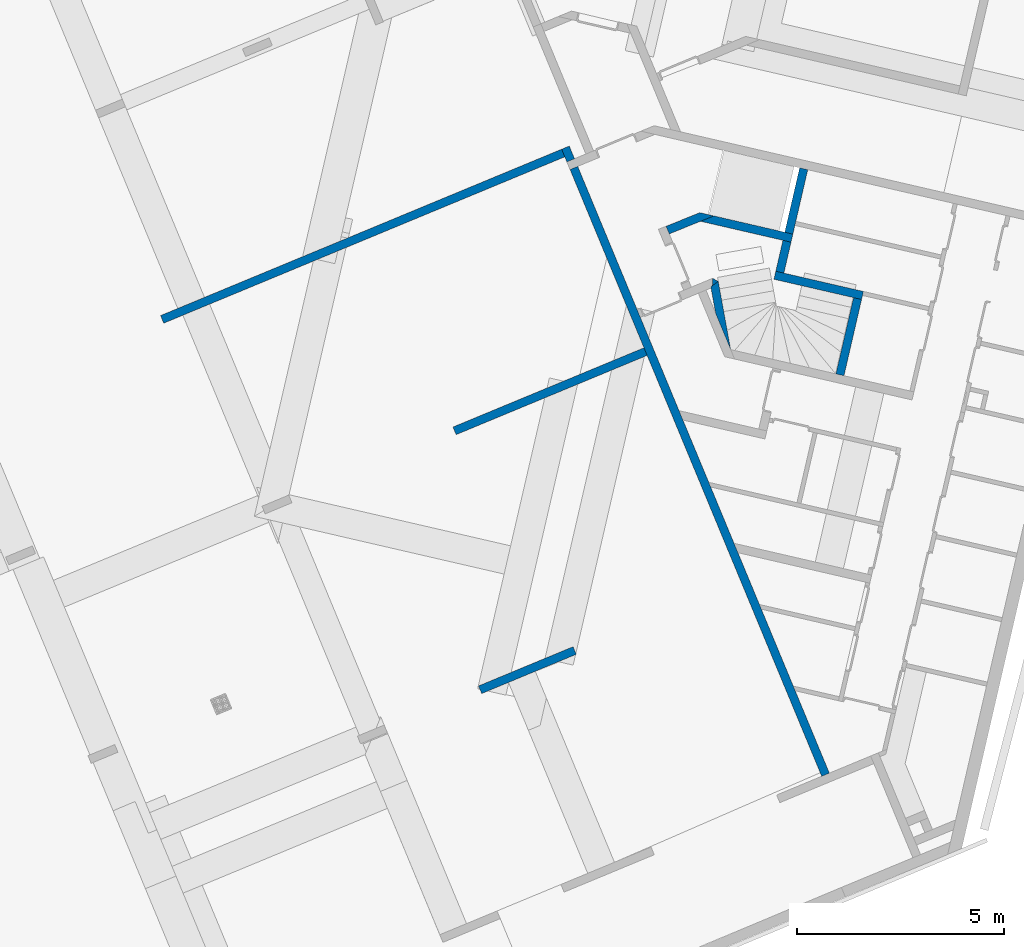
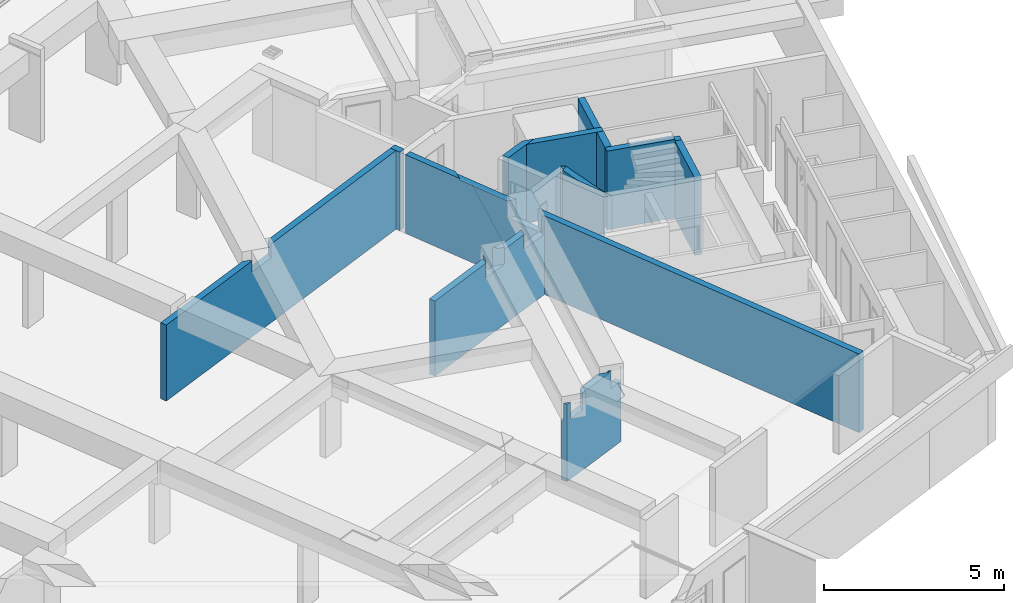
# One storey, part 9 of 20: 11 walls.
"""IFC2X3 building model written with IfcOpenShell, lengths in metres."""

from ifc_helpers import new_model, entity, si_unit, converted_unit, derived_unit, money_unit, direction, frame, origin_with_axes, place, context, subcontext, project, spatial, faceted_brep, material, type_object, element, save


model = new_model("IFC2X3")

# Units and contexts
model_context = context("Model", 3, precision=1e-05, world=origin_with_axes(), true_north=direction((0.0, 1.0)))
body_context = subcontext(model_context, "Body", "Model", "MODEL_VIEW")
ifc_project = project(units=[si_unit("LENGTHUNIT", "METRE"), si_unit("AREAUNIT", "SQUARE_METRE"), si_unit("VOLUMEUNIT", "CUBIC_METRE"), converted_unit("PLANEANGLEUNIT", "DEGREE", entity("IfcPlaneAngleMeasure", 0.0174532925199), si_unit("PLANEANGLEUNIT", "RADIAN"), dimensions=[0, 0, 0, 0, 0, 0, 0]), si_unit("SOLIDANGLEUNIT", "STERADIAN"), money_unit("EUR"), converted_unit("TIMEUNIT", "Year", entity("IfcTimeMeasure", 31556926.0), si_unit("TIMEUNIT", "SECOND"), dimensions=[0, 0, 1, 0, 0, 0, 0]), si_unit("MASSUNIT", "GRAM", prefix="KILO"), si_unit("THERMODYNAMICTEMPERATUREUNIT", "DEGREE_CELSIUS"), si_unit("LUMINOUSINTENSITYUNIT", "LUMEN"), si_unit("ENERGYUNIT", "JOULE", prefix="MEGA"), derived_unit("THERMALCONDUCTANCEUNIT", [(si_unit("POWERUNIT", "WATT"), 1), (si_unit("LENGTHUNIT", "METRE"), -1), (si_unit("THERMODYNAMICTEMPERATUREUNIT", "KELVIN"), -1)]), derived_unit("SPECIFICHEATCAPACITYUNIT", [(si_unit("ENERGYUNIT", "JOULE"), 1), (si_unit("MASSUNIT", "GRAM", prefix="KILO"), -1), (si_unit("THERMODYNAMICTEMPERATUREUNIT", "KELVIN"), -1)]), derived_unit("MASSDENSITYUNIT", [(si_unit("MASSUNIT", "GRAM", prefix="KILO"), 1), (si_unit("VOLUMEUNIT", "CUBIC_METRE"), -1)])], contexts=[model_context])

# Site, building, storey
site_placement = place(None, origin_with_axes())
site = spatial("IfcSite", under=ifc_project, at=site_placement, Name="Site", CompositionType="ELEMENT")
building_placement = place(site_placement, origin_with_axes())
building = spatial("IfcBuilding", under=site, at=building_placement, Name="Bâtiment", CompositionType="ELEMENT")
storey_placement = place(building_placement, frame((0.0, 0.0, -2.9), z_axis=(0.0, 0.0, 1.0), x_axis=(1.0, 0.0, 0.0)))
storey = spatial("IfcBuildingStorey", under=building, at=storey_placement, Name="Sous-sol", CompositionType="ELEMENT", Elevation=-2.9)

# Walls
ifc_material = material(Name="Béton")
wall_type = type_object("IfcWallType", Name="Béton 200", PredefinedType="USERDEFINED")
wall_1_placement = place(storey_placement, frame((-6.65779304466, -19.589454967, 0.0), z_axis=(0.0, 0.0, 1.0), x_axis=(-0.383112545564, 0.923701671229, 0.0)))
element("IfcWall", 1, at=wall_1_placement, inside=storey, type_object=wall_type, material=ifc_material, Name="M_Ext-007", ObjectType="SOLIDWALL", context=body_context, shape_type="Brep", body=[
    faceted_brep([(12.2814412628, 0.0, 2.67), (12.2814412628, 0.0, 2.0499999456), (11.5047320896, 0.0, 2.0499999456), (11.5047320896, 0.0, 2.67), (0.10000000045, 0.0, 2.67), (0.10000000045, 0.0, 0.0), (15.9892481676, 0.0, 0.0), (15.9892481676, 0.0, 2.67), (14.3801234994, 0.0, 2.67), (14.3801235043, 0.0, 2.62), (12.2975737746, 0.0, 2.62), (12.2975737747, 0.0, 2.67), (12.4242168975, 0.2, 2.0499999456), (12.2868873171, 0.00762882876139, 2.67), (12.2868873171, 0.0076288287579, 2.62), (12.4242168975, 0.2, 2.62), (11.2245722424, 0.2, 2.0499999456), (11.2245722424, 0.2, 2.67), (0.10000000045, 0.2, 2.67), (0.10000000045, 0.2, 0.0), (15.9892481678, 0.2, 0.0), (15.9892481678, 0.2, 2.67), (14.0999636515, 0.2, 2.67), (14.0999636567, 0.2, 2.62)], [[[0, 1, 2, 3, 4, 5, 6, 7, 8, 9, 10, 11]], [[12, 1, 0, 13, 14, 15]], [[16, 2, 1, 12]], [[16, 17, 3, 2]], [[4, 3, 17, 18]], [[5, 4, 18, 19]], [[5, 19, 20, 6]], [[21, 7, 6, 20]], [[7, 21, 22, 8]], [[22, 23, 9, 8]], [[23, 15, 14, 10, 9]], [[10, 14, 13, 11]], [[11, 13, 0]], [[16, 12, 15, 23, 22, 21, 20, 19, 18, 17]]]),
    faceted_brep([(16.1892481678, 0.2, 0.0), (16.5216389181, 0.2, 0.0), (16.5216389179, 0.0, 0.0), (16.1892481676, 0.0, 0.0), (16.1892481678, 0.2, 2.67), (16.5216389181, 0.2, 2.67), (16.5216389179, 0.0, 2.67), (16.1892481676, 0.0, 2.67)], [[[0, 1, 2, 3]], [[4, 5, 1, 0]], [[6, 2, 1, 5]], [[3, 2, 6, 7]], [[7, 4, 0, 3]], [[7, 6, 5, 4]]]),
])
wall_2_placement = place(storey_placement, frame((-7.41382429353, -4.85489858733, 0.0), z_axis=(0.0, 0.0, 1.0), x_axis=(-0.224876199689, -0.974387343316, 0.0)))
element("IfcWall", 2, at=wall_2_placement, inside=storey, type_object=wall_type, material=ifc_material, Name="M_Ext-007", ObjectType="SOLIDWALL", context=body_context, shape_type="Brep", body=[
    faceted_brep([(1.80000000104, 0.2, 0.0), (2.56736715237, 0.2, 0.0), (2.56736715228, 0.0, 0.0), (1.80000000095, 0.0, 0.0), (1.80000000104, 0.2, 2.67), (2.56736715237, 0.2, 2.67), (2.56736715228, 0.0, 2.67), (1.80000000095, 0.0, 2.67)], [[[0, 1, 2, 3]], [[4, 5, 1, 0]], [[6, 2, 1, 5]], [[3, 2, 6, 7]], [[7, 4, 0, 3]], [[7, 6, 5, 4]]]),
    faceted_brep([(-1.78838632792e-09, 0.0, 0.0), (0.0, 0.0, 2.62), (-1.74877801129e-09, 0.2, 2.62), (-1.74877801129e-09, 0.2, 0.0), (1.60000000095, 0.0, 0.0), (1.6000000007, 0.0, 2.62), (1.60000000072, 0.2, 2.62), (1.60000000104, 0.2, 0.0)], [[[0, 1, 2, 3]], [[4, 5, 1, 0]], [[6, 2, 1, 5]], [[3, 2, 6, 7]], [[3, 7, 4, 0]], [[7, 6, 5, 4]]]),
])
wall_3_placement = place(storey_placement, frame((-6.06674905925, -7.80063914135, 0.0), z_axis=(0.0, 0.0, 1.0), x_axis=(-0.224876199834, -0.974387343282, 0.0)))
element("IfcWall", 3, at=wall_3_placement, inside=storey, type_object=wall_type, material=ifc_material, Name="M_Ext-007", ObjectType="SOLIDWALL", context=body_context, shape_type="Brep", body=[
    faceted_brep([(0.2, 0.0, 0.0), (0.2, -1.08646247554e-09, 2.62), (0.200000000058, 0.2, 2.62), (0.200000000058, 0.2, 0.0), (2.09263284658, 0.0, 0.0), (2.09263284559, -2.26087593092e-09, 2.62), (2.09263284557, 0.2, 2.62), (2.09263284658, 0.2, 0.0)], [[[0, 1, 2, 3]], [[4, 5, 1, 0]], [[5, 6, 2, 1]], [[3, 2, 6, 7]], [[7, 4, 0, 3]], [[7, 6, 5, 4]]]),
])
wall_4_placement = place(storey_placement, frame((-6.06674905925, -7.80063914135, 0.0), z_axis=(0.0, 0.0, 1.0), x_axis=(-0.974387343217, 0.224876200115, 0.0)))
element("IfcWall", 4, at=wall_4_placement, inside=storey, type_object=wall_type, material=ifc_material, Name="M_Ext-007", ObjectType="SOLIDWALL", context=body_context, shape_type="Brep", body=[
    faceted_brep([(1.97499999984, 0.0, 2.67), (0.0, 0.0, 2.67), (9.62359969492e-10, 0.0, 2.62), (-0.2, 0.0, 2.62), (-0.2, 0.0, 2.37), (-0.2, 0.0, 0.0), (1.97499999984, 0.0, 0.0), (1.97499999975, 0.2, 2.67), (-1.02684971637e-10, 0.2, 2.67), (1.0287664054e-09, 0.2, 2.62), (-0.200000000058, 0.2, 2.62), (-0.200000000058, 0.2, 2.37), (-0.200000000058, 0.2, 0.0), (1.97499999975, 0.2, 0.0)], [[[0, 1, 2, 3, 4, 5, 6]], [[7, 8, 1, 0]], [[9, 2, 1, 8]], [[9, 10, 3, 2]], [[4, 3, 10, 11]], [[4, 11, 12, 5]], [[12, 13, 6, 5]], [[13, 7, 0, 6]], [[10, 9, 8, 7, 13, 12, 11]]]),
])
wall_5_placement = place(storey_placement, frame((-9.38321799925, -7.60257682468, 0.0), z_axis=(0.0, 0.0, 1.0), x_axis=(0.178937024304, -0.983860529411, 0.0)))
element("IfcWall", 5, at=wall_5_placement, inside=storey, type_object=wall_type, material=ifc_material, Name="M_Ext-007", ObjectType="SOLIDWALL", context=body_context, shape_type="Brep", body=[
    faceted_brep([(0.0, 0.0, 2.67), (0.0956295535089, -0.2, 2.67), (0.753027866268, -0.2, 2.67), (1.67660005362, 0.0, 2.67), (0.0, 0.0, 0.0), (0.0956295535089, -0.2, 0.0), (0.753027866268, -0.2, 1.36206668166e-08), (1.67660005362, 0.0, 2.94173903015e-08)], [[[0, 1, 2, 3]], [[0, 4, 5, 1]], [[1, 5, 6, 2]], [[6, 7, 3, 2]], [[4, 0, 3, 7]], [[5, 4, 7, 6]]]),
])
wall_6_placement = place(storey_placement, frame((-7.57874874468, -6.45889357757, 0.0), z_axis=(0.0, 0.0, 1.0), x_axis=(-0.974387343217, 0.224876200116, 0.0)))
element("IfcWall", 6, at=wall_6_placement, inside=storey, type_object=wall_type, material=ifc_material, Name="M_Ext-007", ObjectType="SOLIDWALL", context=body_context, shape_type="Brep", body=[
    faceted_brep([(0.0, 0.2, 0.0), (2.24698745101, 0.2, 0.0), (1.96109663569, 0.0, 0.0), (0.0, 0.0, 0.0), (0.0, 0.2, 2.67), (2.24698745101, 0.2, 2.67), (1.96109663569, 0.0, 2.67), (0.0, 0.0, 2.67)], [[[0, 1, 2, 3]], [[4, 5, 1, 0]], [[6, 2, 1, 5]], [[3, 2, 6, 7]], [[7, 4, 0, 3]], [[7, 6, 5, 4]]]),
])
wall_7_placement = place(storey_placement, frame((-9.51991530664, -7.52810035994, 0.0), z_axis=(0.0, 0.0, 1.0), x_axis=(0.87812690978, -0.478427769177, 0.0)))
element("IfcWall", 7, at=wall_7_placement, inside=storey, type_object=wall_type, material=ifc_material, Name="M_Ext-007", ObjectType="SOLIDWALL", context=body_context, shape_type="Brep", body=[
    faceted_brep([(0.155669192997, 0.0, 0.0), (0.0, 0.0, 0.0), (0.0, 0.0, 2.67), (0.155669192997, 0.0, 2.67), (0.0778345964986, -0.162783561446, 0.0), (0.0778345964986, -0.162783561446, 2.67)], [[[0, 1, 2, 3]], [[1, 0, 4]], [[2, 1, 4, 5]], [[3, 2, 5]], [[4, 0, 3, 5]]]),
])
wall_8_placement = place(storey_placement, frame((-9.82958350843, -5.93942955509, 0.0), z_axis=(0.0, 0.0, 1.0), x_axis=(-0.927315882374, -0.374279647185, 0.0)))
element("IfcWall", 8, at=wall_8_placement, inside=storey, type_object=wall_type, material=ifc_material, Name="M_Ext-007", ObjectType="SOLIDWALL", context=body_context, shape_type="Brep", body=[
    faceted_brep([(-0.285890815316, 0.2, 0.0), (0.877839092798, 0.2, 0.0), (0.879747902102, 0.0, 0.0), (0.0, 0.0, 0.0), (-0.285890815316, 0.2, 2.67), (0.877839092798, 0.2, 2.67), (0.879747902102, 0.0, 2.67), (0.0, 0.0, 2.67)], [[[0, 1, 2, 3]], [[4, 5, 1, 0]], [[6, 2, 1, 5]], [[3, 2, 6, 7]], [[3, 7, 4, 0]], [[7, 6, 5, 4]]]),
])
wall_9_placement = place(storey_placement, frame((-10.9569437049, -9.22400834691, 0.0), z_axis=(0.0, 0.0, 1.0), x_axis=(-0.923701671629, -0.3831125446, 0.0)))
element("IfcWall", 9, at=wall_9_placement, inside=storey, type_object=wall_type, material=ifc_material, Name="M_Ext-007", ObjectType="SOLIDWALL", context=body_context, shape_type="Brep", body=[
    faceted_brep([(0.199999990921, -0.1, 0.0), (0.199999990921, -0.1, 2.0499999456), (0.19999999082, -0.00293332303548, 2.0499999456), (0.19999999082, -0.00293332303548, 2.67), (0.199999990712, 0.1, 2.67), (0.199999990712, 0.1, 0.0), (0.990772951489, -0.1, 2.55), (0.990772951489, -0.1, 2.0499999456), (5.20235062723, -0.1, 0.0), (5.20235062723, -0.1, 2.55), (2.73818048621, -0.1, 2.55), (2.73818048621, -0.1, 2.67), (2.73816145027, -0.1, 2.67), (2.73816145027, -0.1, 2.05), (2.30812807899, -0.1, 2.05), (2.30812807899, -0.1, 2.67), (2.18338536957, -0.1, 2.67), (2.18338537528, -0.1, 2.62), (1.87809470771, -0.1, 2.62), (1.87809470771, -0.1, 2.55), (0.273481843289, 0.1, 2.0499999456), (1.13354858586, 0.1, 2.0499999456), (0.273481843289, 0.1, 2.67), (1.13354858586, 0.1, 2.55), (2.02087034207, 0.1, 2.55), (2.02087034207, 0.1, 2.62), (2.02796823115, 0.1, 2.62), (2.02796823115, 0.1, 2.05), (2.88093708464, 0.1, 2.05), (2.88093708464, 0.1, 2.67), (2.88097484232, 0.1, 2.67), (2.88097484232, 0.1, 2.55), (5.20235062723, 0.1, 2.55), (5.20235062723, 0.1, 0.0), (2.22549633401, -0.0410110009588, 2.62), (2.22549633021, -0.0410109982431, 2.67)], [[[0, 1, 2, 3, 4, 5]], [[6, 7, 1, 0, 8, 9, 10, 11, 12, 13, 14, 15, 16, 17, 18, 19]], [[20, 2, 1, 7, 21]], [[20, 22, 3, 2]], [[4, 3, 22]], [[20, 21, 23, 24, 25, 26, 27, 28, 29, 30, 31, 32, 33, 5, 4, 22]], [[8, 0, 5, 33]], [[21, 7, 6, 23]], [[8, 33, 32, 9]], [[32, 31, 10, 9]], [[10, 31, 30, 11]], [[30, 29, 12, 11]], [[28, 13, 12, 29]], [[13, 28, 27, 14]], [[14, 27, 26, 34, 35, 15]], [[16, 15, 35]], [[16, 35, 34, 17]], [[17, 34, 26, 25, 18]], [[25, 24, 19, 18]], [[24, 23, 6, 19]]]),
])
wall_10_placement = place(storey_placement, frame((-12.9491289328, -4.42075965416, 0.0), z_axis=(0.0, 0.0, 1.0), x_axis=(-0.923701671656, -0.383112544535, 0.0)))
element("IfcWall", 10, at=wall_10_placement, inside=storey, type_object=wall_type, material=ifc_material, Name="M_Ext-007", ObjectType="SOLIDWALL", context=body_context, shape_type="Brep", body=[
    faceted_brep([(6.64476209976, -0.1, 2.3), (6.64476209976, -0.1, 2.2), (5.78469535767, -0.1, 2.2), (5.78469535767, -0.1, 2.65426664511), (5.8117742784, -0.1, 2.67), (0.200000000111, -0.1, 2.67), (0.200000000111, -0.1, 0.0), (10.7023932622, -0.1, 0.0), (10.7023932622, -0.1, 2.58), (6.96481998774, -0.1, 2.58), (6.96481998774, -0.1, 2.3), (6.7875377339, 0.1, 2.2), (6.75280805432, 0.0513506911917, 2.3), (6.75280805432, 0.0513506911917, 2.58), (6.7875377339, 0.1, 2.58), (5.9274709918, 0.1, 2.2), (5.79383672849, -0.0871947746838, 2.67), (5.9274709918, 0.1, 2.67), (0.199999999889, 0.1, 2.67), (0.199999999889, 0.1, 0.0), (10.7023932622, 0.1, 0.0), (10.7023932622, 0.1, 2.58)], [[[0, 1, 2, 3, 4, 5, 6, 7, 8, 9, 10]], [[11, 1, 0, 12, 13, 14]], [[15, 2, 1, 11]], [[16, 3, 2, 15, 17]], [[16, 4, 3]], [[4, 16, 17, 18, 5]], [[6, 5, 18, 19]], [[7, 6, 19, 20]], [[7, 20, 21, 8]], [[21, 14, 13, 9, 8]], [[9, 13, 12, 10]], [[10, 12, 0]], [[15, 11, 14, 21, 20, 19, 18, 17]]]),
])
wall_11_placement = place(storey_placement, frame((-12.8573073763, -16.5312291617, 0.0), z_axis=(0.0, 0.0, 1.0), x_axis=(-0.923701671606, -0.383112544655, 0.0)))
element("IfcWall", 11, at=wall_11_placement, inside=storey, type_object=wall_type, material=ifc_material, Name="M_Ext-007", ObjectType="SOLIDWALL", context=body_context, shape_type="Brep", body=[
    faceted_brep([(0.0, -0.1, 0.0), (0.0, -0.1, 2.0499999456), (0.0, 0.0757082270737, 2.0499999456), (0.0, 0.0757082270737, 2.55), (0.0, 0.1, 2.55), (0.0, 0.1, 0.0), (0.734632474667, -0.1, 2.55), (0.734632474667, -0.1, 2.0499999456), (2.47505419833, -0.1, 0.0), (2.47505419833, -0.1, 2.05), (1.62195423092, -0.1, 2.05), (1.62195423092, -0.1, 2.55), (0.0173413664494, 0.1, 2.0499999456), (0.73834733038, -0.0947962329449, 2.0499999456), (0.465476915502, 0.1, 2.0499999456), (0.0173413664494, 0.1, 2.55), (0.465476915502, 0.1, 2.67), (0.58333372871, 0.1, 2.67), (0.58333372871, 0.1, 2.62), (1.76472986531, 0.1, 2.62), (1.76472986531, 0.1, 2.05), (2.31569660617, 0.1, 2.05), (2.31569660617, 0.1, 2.62), (2.47505419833, 0.1, 2.62), (2.47505419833, 0.1, 0.0), (0.73834733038, -0.0947962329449, 2.55), (2.47505419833, -0.0137619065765, 2.62), (2.47505419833, -0.0137619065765, 2.05), (1.62195423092, -0.1, 2.62), (0.543547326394, 0.0442672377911, 2.62), (0.543547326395, 0.044267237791, 2.67), (0.73834733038, -0.0947962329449, 2.62)], [[[0, 1, 2, 3, 4, 5]], [[6, 7, 1, 0, 8, 9, 10, 11]], [[12, 2, 1, 7, 13, 14]], [[12, 15, 3, 2]], [[4, 3, 15]], [[12, 14, 16, 17, 18, 19, 20, 21, 22, 23, 24, 5, 4, 15]], [[8, 0, 5, 24]], [[13, 7, 6, 25]], [[26, 27, 9, 8, 24, 23]], [[20, 10, 9, 27, 21]], [[20, 19, 28, 11, 10]], [[11, 25, 6]], [[29, 30, 16, 14, 13, 25, 31]], [[17, 16, 30]], [[17, 30, 29, 18]], [[18, 29, 31, 28, 19]], [[27, 26, 22, 21]], [[23, 22, 26]], [[28, 31, 25, 11]]]),
])

save(model, "model.ifc")
